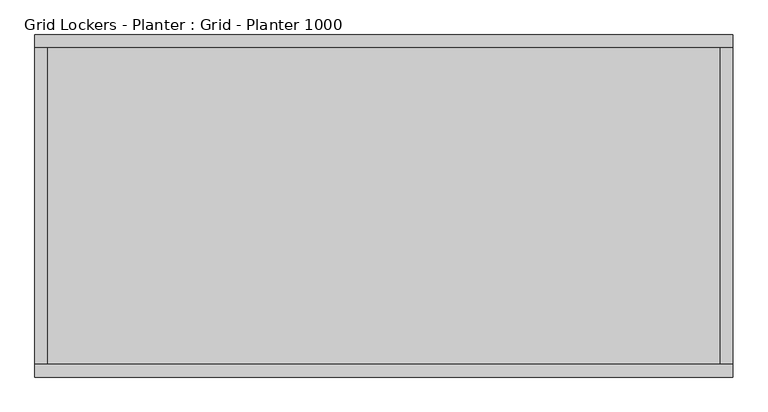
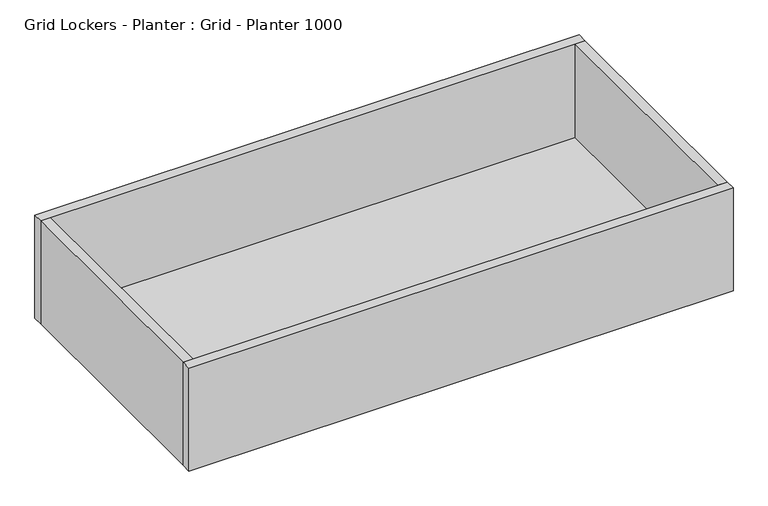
"""IFC4 building model written with IfcOpenShell, lengths in millimetres: furniture geometry, Grid Lockers - Planter : Grid - Planter 1000."""

from ifc_helpers import new_model, si_unit, origin, origin_with_axes, place, context, project, spatial, polyline, outline, extrude, source, transform, mapped, element, save


def grid_lockers_planter_grid_planter_1000_ce209434(model_context):
    return source(origin(), model_context, "Body", "SweptSolid", [
        extrude(outline(polyline([(0.0, -18.0), (0.0, 0.0), (1000.0, 0.0), (1000.0, -18.0), (0.0, -18.0)])), origin_with_axes(), (0.0, 0.0, 1.0), 200.0),
        extrude(outline(polyline([(0.0, -490.0), (0.0, -472.0), (1000.0, -472.0), (1000.0, -490.0), (0.0, -490.0)])), origin_with_axes(), (0.0, 0.0, 1.0), 200.0),
        extrude(outline(polyline([(982.0, -18.0), (1000.0, -18.0), (1000.0, -472.0), (982.0, -472.0), (982.0, -18.0)])), origin_with_axes(), (0.0, 0.0, 1.0), 200.0),
        extrude(outline(polyline([(0.0, -18.0), (18.0, -18.0), (18.0, -472.0), (0.0, -472.0), (0.0, -18.0)])), origin_with_axes(), (0.0, 0.0, 1.0), 200.0),
        extrude(outline(polyline([(982.0, -472.0), (18.0, -472.0), (18.0, -18.0), (982.0, -18.0), (982.0, -472.0)])), origin_with_axes(), (0.0, 0.0, 1.0), 18.0),
    ])


if __name__ == "__main__":
    model = new_model("IFC4")
    model_context = context("Model", 3, world=origin())
    ifc_project = project(units=[si_unit("LENGTHUNIT", "METRE", prefix="MILLI")], contexts=[model_context])
    site = spatial("IfcSite", under=ifc_project)
    building = spatial("IfcBuilding", under=site)
    placement = place(None, origin())
    grid_lockers_planter_grid_planter_1000_shape = grid_lockers_planter_grid_planter_1000_ce209434(model_context)
    element("IfcFurniture", 1, ObjectType="Grid Lockers - Planter : Grid - Planter 1000", at=placement, inside=building, context=model_context, shape_type="MappedRepresentation", body=[
        mapped(grid_lockers_planter_grid_planter_1000_shape, transform((0.0, 0.0, 0.0), x_axis=(1.0, 0.0, 0.0), y_axis=(0.0, 1.0, 0.0), z_axis=(0.0, 0.0, 1.0))),
    ])
    save(model, "model.ifc")
